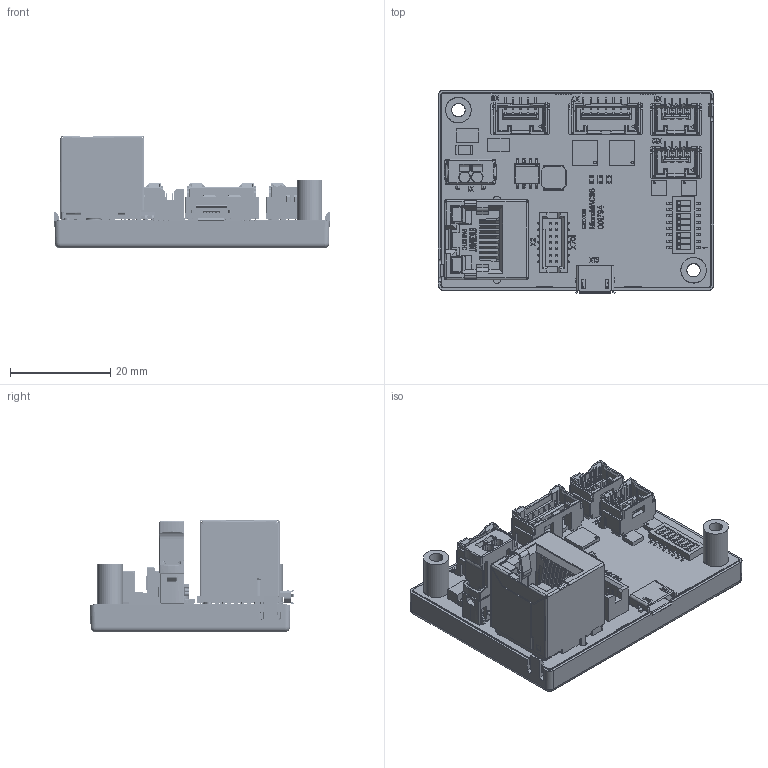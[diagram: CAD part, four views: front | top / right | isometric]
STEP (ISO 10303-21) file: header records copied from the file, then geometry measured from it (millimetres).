
FILE_DESCRIPTION((''),'2;1');
FILE_NAME('MICROMACS6_ASM','2023-03-06T13:22:07',('MMAGODEM'),(''),'CREO PARAMETRIC BY PTC INC, 2020342','CREO PARAMETRIC BY PTC INC, 2020342','');
FILE_SCHEMA(('CONFIG_CONTROL_DESIGN','SHAPE_APPEARANCE_LAYERS_GROUPS'));
Products named in the file (107): PCB_1_2_3_4_5_1; PCB_1_2_3_4_5_2; PCB_1_2_3_4_5_3; PCB_1_2_3_4_5_4; PCB_1_2_3_4_5_5; PCB_1_2_3_4_5_6; PCB_1_2_3_4_5_7; PCB_1_2_3_4_5_8; PCB_1_2_3_4_5_9; PCB_1_2_3_4_5_10; PCB_1_2_3_4_5_11; PCB_1_2_3_4_5_12; PCB_1_2_3_4_5_13; PCB_1_2_3_4_5_14; PCB_1_2_3_4_5_15; PCB_1_2_3_4_5_16; PCB_1_2_3_4_5_17; PCB_1_2_3_4_5_18; PCB_1_2_3_4_5_19; PCB_1_2_3_4_5_20; PCB_1_2_3_4_5_21; PCB_1_2_3_4_5_22; PCB_1_2_3_4_5_23; PCB_1_2_3_4_5_24; PCB_1_2_3_4_5_25; PCB_1_2_3_4_5_26; PCB_1_2_3_4_5_27; PCB_1_2_3_4_5_28; PCB_1_2_3_4_5_29; PCB_1_2_3_4_5_30; PCB_1_2_3_4_5_31; PCB_1_2_3_4_5_32; PCB_1_2_3_4_5_33; PCB_1_2_3_4_5_34; PCB_1_2_3_4_5_35; PCB_1_2_3_4_5_36; PCB_1_2_3_4_5_37; PCB_1_2_3_4_5_38; PCB_1_2_3_4_5_39; PCB_1_2_3_4_5_40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
Assembly tree (106 placements, depth 4):
  MICROMACS6_ASM
    737678_MICROMACS6_V2_AF0_ASM
      PCB_1_2_3_4_5_AF0_ASM
        PCB_1_2_3_4_5_1
        PCB_1_2_3_4_5_2
        PCB_1_2_3_4_5_3
        PCB_1_2_3_4_5_4
        PCB_1_2_3_4_5_5
        PCB_1_2_3_4_5_6
        PCB_1_2_3_4_5_7
        PCB_1_2_3_4_5_8
        PCB_1_2_3_4_5_9
        PCB_1_2_3_4_5_10
        PCB_1_2_3_4_5_11
        PCB_1_2_3_4_5_12
        PCB_1_2_3_4_5_13
        PCB_1_2_3_4_5_14
        PCB_1_2_3_4_5_15
        PCB_1_2_3_4_5_16
        PCB_1_2_3_4_5_17
        PCB_1_2_3_4_5_18
        PCB_1_2_3_4_5_19
        PCB_1_2_3_4_5_20
        PCB_1_2_3_4_5_21
        PCB_1_2_3_4_5_22
        PCB_1_2_3_4_5_23
        PCB_1_2_3_4_5_24
        PCB_1_2_3_4_5_25
        PCB_1_2_3_4_5_26
        PCB_1_2_3_4_5_27
        PCB_1_2_3_4_5_28
        PCB_1_2_3_4_5_29
        PCB_1_2_3_4_5_30
        PCB_1_2_3_4_5_31
        PCB_1_2_3_4_5_32
        PCB_1_2_3_4_5_33
        PCB_1_2_3_4_5_34
        PCB_1_2_3_4_5_35
        PCB_1_2_3_4_5_36
        PCB_1_2_3_4_5_37
        PCB_1_2_3_4_5_38
        PCB_1_2_3_4_5_39
        PCB_1_2_3_4_5_40
        PCB_1_2_3_4_5_41
        PCB_1_2_3_4_5_42
        PCB_1_2_3_4_5_43
        PCB_1_2_3_4_5_44
        PCB_1_2_3_4_5_45_AF0
        PCB_1_2_3_4_5_46_AF0
        PCB_1_2_3_4_5_47_AF0
        PCB_1_2_3_4_5_48_AF0
        PCB_1_2_3_4_5_49
        PCB_1_2_3_4_5_50
        PCB_1_2_3_4_5_51
        PCB_1_2_3_4_5_52
        PCB_1_2_3_4_5_53
        PCB_1_2_3_4_5_54_AF0
        PCB_1_2_3_4_5_55
        PCB_1_2_3_4_5_56_AF0
        PCB_1_2_3_4_5_57
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Bounding box: 55.06 x 40.7 x 22.42 mm (x, y, z)
Volume: 7821.2 mm3; surface area: 30865.7 mm2
Topology: 115 solids, 1802 shells, 10573 faces, 34041 edges, 25114 vertices
Faces by surface type: plane 8817, cylinder 1483, torus 105, bspline 98, sphere 38, cone 32
Entity records: 481448 total; most frequent: CARTESIAN_POINT 78699, ORIENTED_EDGE 58885, DIRECTION 57855, EDGE_CURVE 33989, VECTOR 29651, LINE 29651, PRESENTATION_STYLE_ASSIGNMENT 28143, STYLED_ITEM 28143
